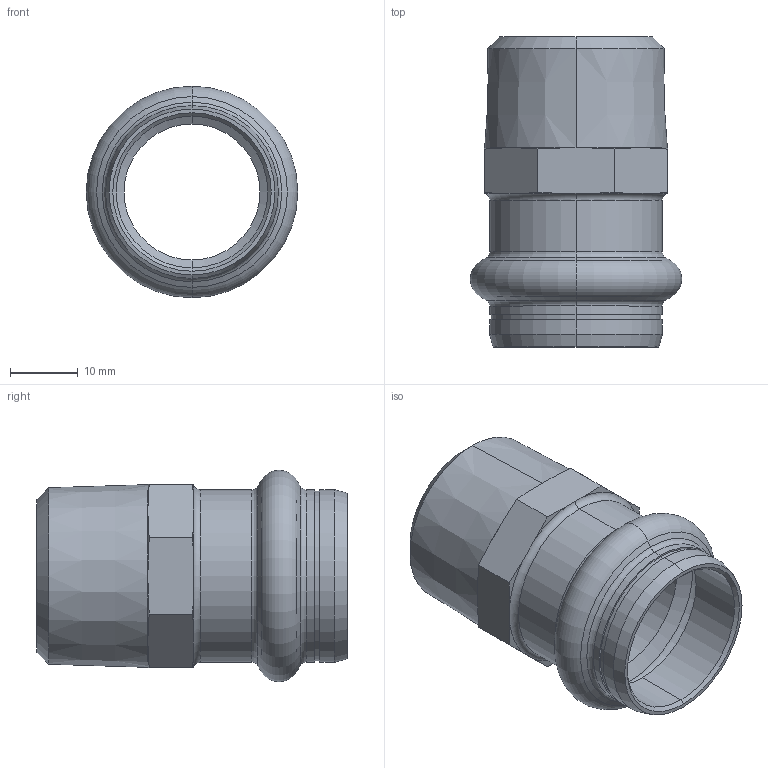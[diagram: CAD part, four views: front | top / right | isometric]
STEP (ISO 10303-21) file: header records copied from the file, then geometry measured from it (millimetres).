
FILE_DESCRIPTION (( 'STEP AP203' ), '1' );
FILE_NAME ('SP4243G Ø22 3-4.STEP', '2017-04-26T07:46:26', ( '' ), ( '' ), 'SwSTEP 2.0', 'SolidWorks 2016', '' );
FILE_SCHEMA (( 'CONFIG_CONTROL_DESIGN' ));
Length unit declared in the file: millimetre
Products named in the file (1): SP4243G Ø22 3-4
Bounding box: 31.1 x 45.6 x 31.1 mm (x, y, z)
Volume: 8671.7 mm3; surface area: 7789.1 mm2
Topology: 1 solids, 1 shells, 63 faces, 144 edges, 86 vertices
Faces by surface type: cone 26, cylinder 14, plane 13, torus 10
Entity records: 1931 total; most frequent: CARTESIAN_POINT 450, DIRECTION 304, ORIENTED_EDGE 288, EDGE_CURVE 144, AXIS2_PLACEMENT_3D 132, VERTEX_POINT 86, EDGE_LOOP 68, CIRCLE 68
